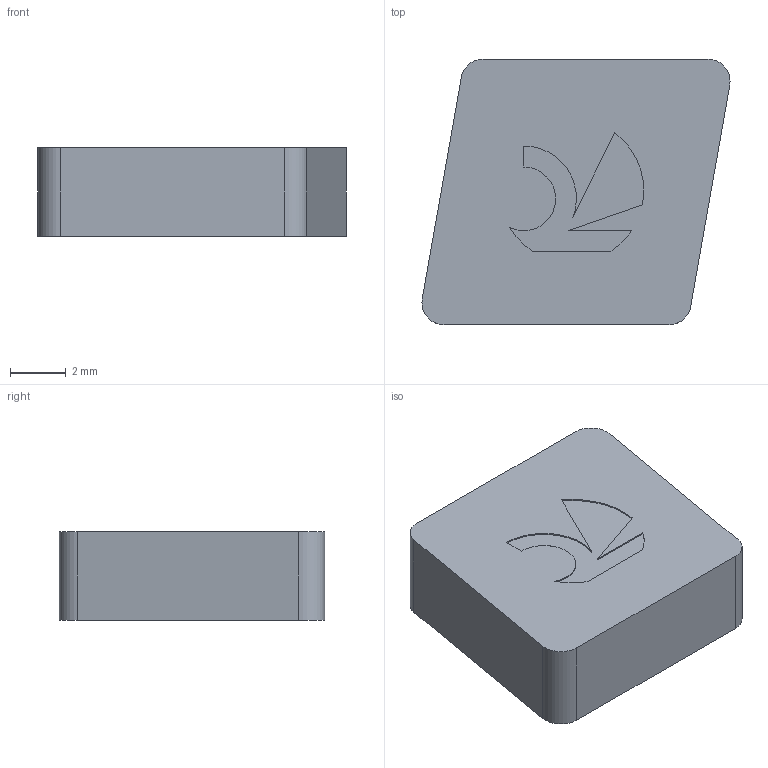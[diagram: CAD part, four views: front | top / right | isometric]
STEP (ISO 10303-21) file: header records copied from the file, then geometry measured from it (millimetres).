
FILE_DESCRIPTION(('no description'),'unknown implementation level');
FILE_NAME('solid1t_ydHMyTD0Fpjpi6qETWdsSq6E_1.STP',' ',('CIMSOURCE GmbH'),('CADClick - KiM GmbH - www.kimweb.de'),'unknown preprocess','ACIS','unknown authorization');
FILE_SCHEMA(('automotive_design'));
Length unit declared in the file: millimetre
Products named in the file (1): CUT
Bounding box: 11.05 x 9.53 x 3.17 mm (x, y, z)
Volume: 290.2 mm3; surface area: 302.4 mm2
Topology: 1 solids, 1 shells, 22 faces, 57 edges, 38 vertices
Faces by surface type: plane 12, cylinder 10
Entity records: 1366 total; most frequent: DIRECTION 127, CARTESIAN_POINT 120, STYLED_ITEM 118, PRESENTATION_STYLE_ASSIGNMENT 118, COLOUR_RGB 118, ORIENTED_EDGE 114, EDGE_CURVE 57, CURVE_STYLE 57
